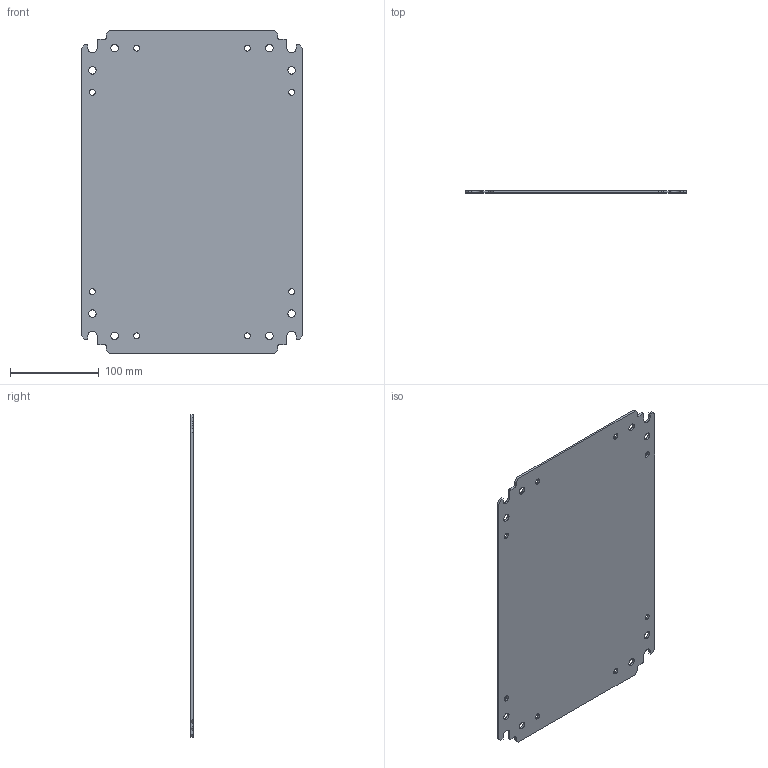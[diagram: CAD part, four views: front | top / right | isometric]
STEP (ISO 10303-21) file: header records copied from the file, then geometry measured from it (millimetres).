
FILE_DESCRIPTION( ( 'Unknown' ), '1' );
FILE_NAME( 'f:/batch/stp/PWP4333.stp', 'Unknown', ( 'Unknown' ), ( 'Unknown' ), 'PSStep 10.1', 'Unknown', ' ' );
FILE_SCHEMA( ( 'AUTOMOTIVE_DESIGN { 1 0 10303 214 1 1 1 1 }' ) );
Length unit declared in the file: millimetre
Products named in the file (2): Assem1; COM53890
Bounding box: 250.01 x 2.41 x 365 mm (x, y, z)
Surface area: 362240.1 mm2
Topology: 2 solids, 2 shells, 124 faces, 392 edges, 272 vertices
Faces by surface type: plane 68, cylinder 56
Full cylindrical faces by diameter (mm): 6.502 x16, 8.509 x16
Entity records: 2078 total; most frequent: CARTESIAN_POINT 348, DIRECTION 348, ORIENTED_EDGE 328, EDGE_CURVE 164, AXIS2_PLACEMENT_3D 120, VERTEX_POINT 120, EDGE_LOOP 110, LINE 108
